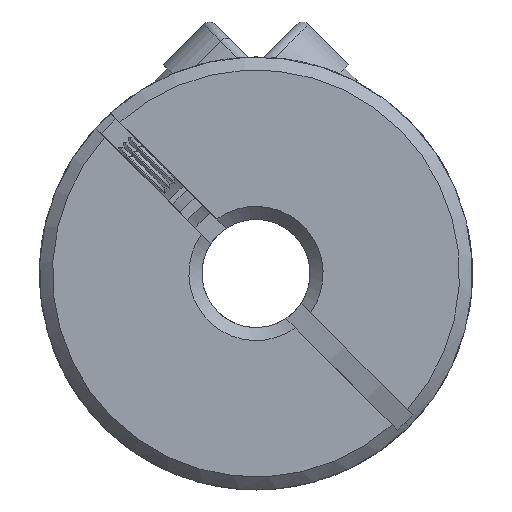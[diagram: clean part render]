
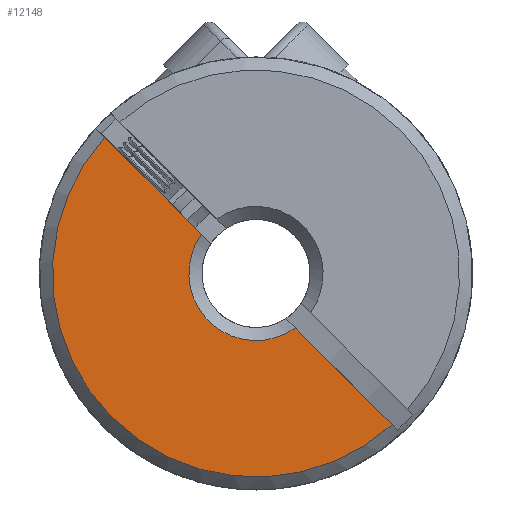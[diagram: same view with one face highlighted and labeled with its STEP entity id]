
A CAD part, front view. The second image highlights one B-rep face of the part: STEP entity #12148.
In plain terms, the highlighted planar face has unit normal (0, -1, 0).
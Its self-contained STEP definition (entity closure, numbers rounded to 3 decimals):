
#862 = FACE_OUTER_BOUND ( 'NONE', #5395, .T. ) ;
#1053 = VERTEX_POINT ( 'NONE', #2457 ) ;
#1179 = ORIENTED_EDGE ( 'NONE', *, *, #13268, .T. ) ;
#1180 = CIRCLE ( 'NONE', #1611, 9.4 ) ;
#1573 = LINE ( 'NONE', #13423, #5553 ) ;
#1611 = AXIS2_PLACEMENT_3D ( 'NONE', #10543, #2380, #6014 ) ;
#1636 = CARTESIAN_POINT ( 'NONE',  ( 45.083, -11.2, 25.627 ) ) ;
#1898 = DIRECTION ( 'NONE',  ( -0.707, 0., 0.707 ) ) ;
#2163 = ORIENTED_EDGE ( 'NONE', *, *, #10852, .T. ) ;
#2380 = DIRECTION ( 'NONE',  ( 0., -1., 0. ) ) ;
#2457 = CARTESIAN_POINT ( 'NONE',  ( 6.284, -11.2, -6.991 ) ) ;
#4697 = CARTESIAN_POINT ( 'NONE',  ( 1.81, -11.2, -2.517 ) ) ;
#4726 = VERTEX_POINT ( 'NONE', #10603 ) ;
#4908 = ORIENTED_EDGE ( 'NONE', *, *, #14170, .T. ) ;
#5019 = VECTOR ( 'NONE', #14637, 1000. ) ;
#5287 = CARTESIAN_POINT ( 'NONE',  ( 0., -11.2, 0. ) ) ;
#5333 = CARTESIAN_POINT ( 'NONE',  ( 0.205, -11.2, -0.912 ) ) ;
#5395 = EDGE_LOOP ( 'NONE', ( #8400, #4908, #1179, #2163 ) ) ;
#5553 = VECTOR ( 'NONE', #1898, 1000. ) ;
#5738 = CARTESIAN_POINT ( 'NONE',  ( -2.517, -11.2, 1.81 ) ) ;
#6014 = DIRECTION ( 'NONE',  ( -0.707, 0., 0.707 ) ) ;
#6484 = AXIS2_PLACEMENT_3D ( 'NONE', #5287, #14445, #7597 ) ;
#7597 = DIRECTION ( 'NONE',  ( -0.707, 0., 0.707 ) ) ;
#8400 = ORIENTED_EDGE ( 'NONE', *, *, #13326, .T. ) ;
#8456 = CIRCLE ( 'NONE', #6484, 3.1 ) ;
#8640 = DIRECTION ( 'NONE',  ( 0., -1., 0. ) ) ;
#10543 = CARTESIAN_POINT ( 'NONE',  ( 0., -11.2, 0. ) ) ;
#10603 = CARTESIAN_POINT ( 'NONE',  ( -6.991, -11.2, 6.284 ) ) ;
#10852 = EDGE_CURVE ( 'NONE', #14159, #14537, #8456, .T. ) ;
#12148 = ADVANCED_FACE ( 'NONE', ( #862 ), #13177, .T. ) ;
#12423 = LINE ( 'NONE', #5333, #5019 ) ;
#12744 = AXIS2_PLACEMENT_3D ( 'NONE', #1636, #8640, #13369 ) ;
#13177 = PLANE ( 'NONE',  #12744 ) ;
#13268 = EDGE_CURVE ( 'NONE', #1053, #14159, #1573, .T. ) ;
#13326 = EDGE_CURVE ( 'NONE', #14537, #4726, #12423, .T. ) ;
#13369 = DIRECTION ( 'NONE',  ( -0.707, 0., 0.707 ) ) ;
#13423 = CARTESIAN_POINT ( 'NONE',  ( -8.839, -11.2, 8.132 ) ) ;
#14159 = VERTEX_POINT ( 'NONE', #4697 ) ;
#14170 = EDGE_CURVE ( 'NONE', #4726, #1053, #1180, .T. ) ;
#14445 = DIRECTION ( 'NONE',  ( 0., 1., 0. ) ) ;
#14537 = VERTEX_POINT ( 'NONE', #5738 ) ;
#14637 = DIRECTION ( 'NONE',  ( -0.707, 0., 0.707 ) ) ;
